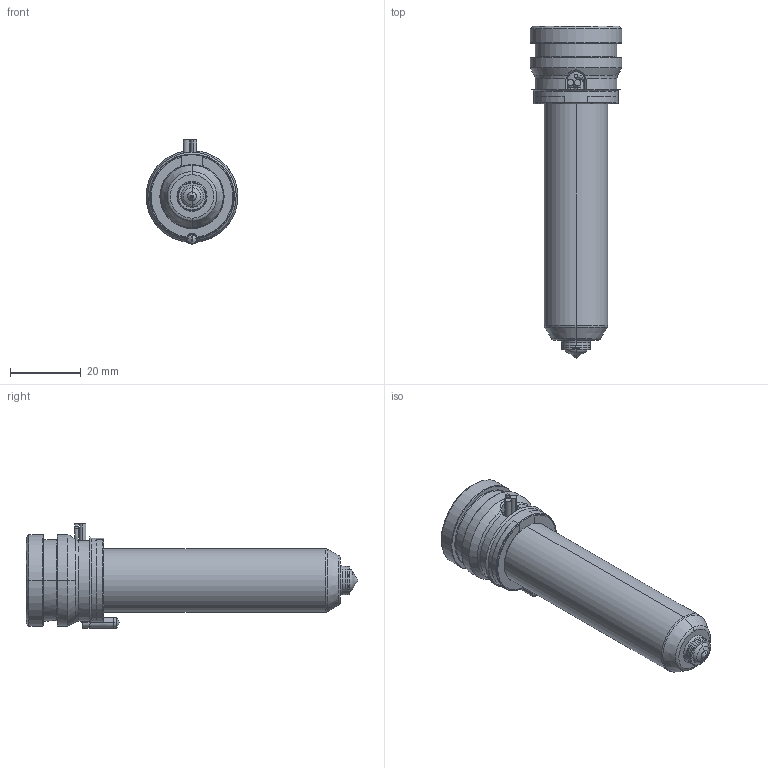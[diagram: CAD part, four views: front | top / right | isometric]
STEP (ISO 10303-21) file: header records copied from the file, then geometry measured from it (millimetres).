
FILE_DESCRIPTION((''),'2;1');
FILE_NAME('TH18076-A-1-PK-JG','2023-12-14T',('umhib'),('Thermoplay S.p.A.'),'PRO/ENGINEER BY PARAMETRIC TECHNOLOGY CORPORATION, 2017170','PRO/ENGINEER BY PARAMETRIC TECHNOLOGY CORPORATION, 2017170','');
FILE_SCHEMA(('CONFIG_CONTROL_DESIGN'));
Length unit declared in the file: millimetre
Products named in the file (1): TH18076-A-1-PK-JG
Bounding box: 26 x 94 x 29.5 mm (x, y, z)
Volume: 20480.8 mm3; surface area: 14888.5 mm2
Topology: 1 solids, 2 shells, 396 faces, 1032 edges, 641 vertices
Faces by surface type: cylinder 151, plane 85, cone 66, torus 56, bspline 24, sphere 12, extrusion 2
Entity records: 18009 total; most frequent: CARTESIAN_POINT 6097, ORIENTED_EDGE 2040, DIRECTION 2023, EDGE_CURVE 1022, AXIS2_PLACEMENT_3D 812, VERTEX_POINT 641, CIRCLE 441, EDGE_LOOP 416
